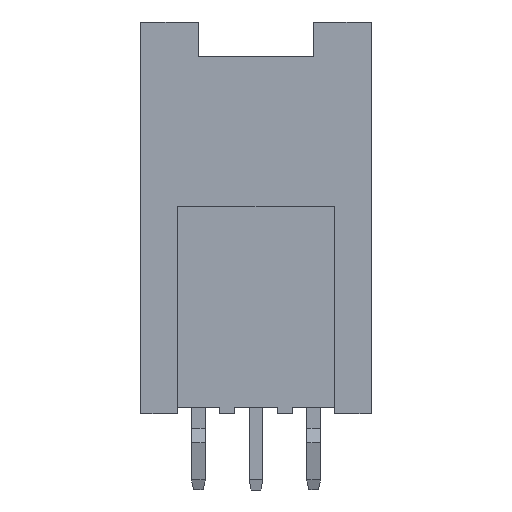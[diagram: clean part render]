
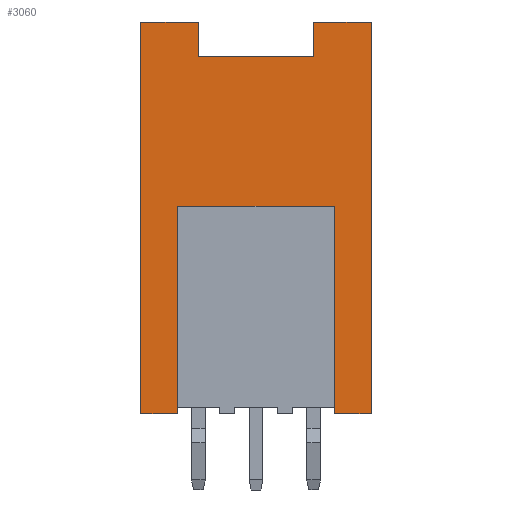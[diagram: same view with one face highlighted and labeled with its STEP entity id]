
A CAD part, front view. The second image highlights one B-rep face of the part: STEP entity #3060.
In plain terms, the highlighted planar face has unit normal (0, -1, 0).
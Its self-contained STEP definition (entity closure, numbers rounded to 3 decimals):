
#12 = DIRECTION ( 'NONE',  ( 0., 0., -1. ) ) ;
#34 = VERTEX_POINT ( 'NONE', #1103 ) ;
#51 = VERTEX_POINT ( 'NONE', #3626 ) ;
#101 = ORIENTED_EDGE ( 'NONE', *, *, #766, .F. ) ;
#222 = VECTOR ( 'NONE', #1293, 1000. ) ;
#233 = EDGE_CURVE ( 'NONE', #34, #2482, #3124, .T. ) ;
#235 = DIRECTION ( 'NONE',  ( 1., 0., 0. ) ) ;
#291 = VERTEX_POINT ( 'NONE', #4625 ) ;
#312 = DIRECTION ( 'NONE',  ( 0., 0., -1. ) ) ;
#380 = VECTOR ( 'NONE', #3720, 1000. ) ;
#419 = VERTEX_POINT ( 'NONE', #1558 ) ;
#692 = CARTESIAN_POINT ( 'NONE',  ( -7.593, -3.079, 8.5 ) ) ;
#739 = CARTESIAN_POINT ( 'NONE',  ( 2.407, -3.079, 8.5 ) ) ;
#766 = EDGE_CURVE ( 'NONE', #2482, #1176, #2978, .T. ) ;
#833 = CARTESIAN_POINT ( 'NONE',  ( -0.093, -3.079, 8.5 ) ) ;
#919 = EDGE_CURVE ( 'NONE', #51, #291, #3889, .T. ) ;
#932 = LINE ( 'NONE', #1346, #222 ) ;
#968 = EDGE_LOOP ( 'NONE', ( #4973, #4266, #101, #1277, #4358, #1109, #3714, #3843, #2757, #1633, #4154, #4010 ) ) ;
#969 = CARTESIAN_POINT ( 'NONE',  ( 5.807, -3.079, 0.5 ) ) ;
#997 = EDGE_CURVE ( 'NONE', #291, #3065, #2789, .T. ) ;
#1103 = CARTESIAN_POINT ( 'NONE',  ( 2.407, -3.079, 8.5 ) ) ;
#1109 = ORIENTED_EDGE ( 'NONE', *, *, #2747, .T. ) ;
#1158 = VECTOR ( 'NONE', #235, 1000. ) ;
#1176 = VERTEX_POINT ( 'NONE', #2217 ) ;
#1211 = FACE_OUTER_BOUND ( 'NONE', #968, .T. ) ;
#1277 = ORIENTED_EDGE ( 'NONE', *, *, #233, .F. ) ;
#1291 = LINE ( 'NONE', #2862, #380 ) ;
#1293 = DIRECTION ( 'NONE',  ( 1., 0., 0. ) ) ;
#1334 = DIRECTION ( 'NONE',  ( -1., 0., 0. ) ) ;
#1346 = CARTESIAN_POINT ( 'NONE',  ( -5.093, -3.079, 7. ) ) ;
#1355 = EDGE_CURVE ( 'NONE', #34, #4780, #1291, .T. ) ;
#1380 = DIRECTION ( 'NONE',  ( -1., 0., 0. ) ) ;
#1532 = CARTESIAN_POINT ( 'NONE',  ( 0.807, -3.079, 12.452 ) ) ;
#1551 = VERTEX_POINT ( 'NONE', #2311 ) ;
#1558 = CARTESIAN_POINT ( 'NONE',  ( -7.593, -3.079, -8.5 ) ) ;
#1597 = VERTEX_POINT ( 'NONE', #2698 ) ;
#1633 = ORIENTED_EDGE ( 'NONE', *, *, #3635, .T. ) ;
#1705 = DIRECTION ( 'NONE',  ( 0., 1., 0. ) ) ;
#1789 = LINE ( 'NONE', #3822, #2567 ) ;
#1867 = EDGE_CURVE ( 'NONE', #1551, #4718, #4593, .T. ) ;
#1896 = EDGE_CURVE ( 'NONE', #3154, #1551, #5037, .T. ) ;
#2053 = DIRECTION ( 'NONE',  ( 1., 0., 0. ) ) ;
#2217 = CARTESIAN_POINT ( 'NONE',  ( 0.807, -3.079, -8.5 ) ) ;
#2308 = EDGE_CURVE ( 'NONE', #3065, #1597, #932, .T. ) ;
#2311 = CARTESIAN_POINT ( 'NONE',  ( -5.993, -3.079, 0.5 ) ) ;
#2482 = VERTEX_POINT ( 'NONE', #3640 ) ;
#2488 = VECTOR ( 'NONE', #4816, 1000. ) ;
#2524 = LINE ( 'NONE', #4860, #2923 ) ;
#2567 = VECTOR ( 'NONE', #3866, 1000. ) ;
#2572 = CARTESIAN_POINT ( 'NONE',  ( 2.407, -3.079, -8.5 ) ) ;
#2576 = DIRECTION ( 'NONE',  ( 0., 0., -1. ) ) ;
#2698 = CARTESIAN_POINT ( 'NONE',  ( -0.093, -3.079, 7. ) ) ;
#2747 = EDGE_CURVE ( 'NONE', #4780, #1597, #1789, .T. ) ;
#2757 = ORIENTED_EDGE ( 'NONE', *, *, #919, .F. ) ;
#2765 = VECTOR ( 'NONE', #312, 1000. ) ;
#2784 = LINE ( 'NONE', #1532, #4970 ) ;
#2789 = LINE ( 'NONE', #4391, #2765 ) ;
#2848 = CARTESIAN_POINT ( 'NONE',  ( -7.593, -3.079, 8.5 ) ) ;
#2862 = CARTESIAN_POINT ( 'NONE',  ( 2.407, -3.079, 8.5 ) ) ;
#2913 = AXIS2_PLACEMENT_3D ( 'NONE', #2848, #1705, #2053 ) ;
#2923 = VECTOR ( 'NONE', #3274, 1000. ) ;
#2978 = LINE ( 'NONE', #2572, #4645 ) ;
#3060 = ADVANCED_FACE ( 'NONE', ( #1211 ), #4105, .F. ) ;
#3065 = VERTEX_POINT ( 'NONE', #4953 ) ;
#3124 = LINE ( 'NONE', #739, #4149 ) ;
#3154 = VERTEX_POINT ( 'NONE', #3893 ) ;
#3274 = DIRECTION ( 'NONE',  ( 1., 0., 0. ) ) ;
#3450 = VECTOR ( 'NONE', #1380, 1000. ) ;
#3524 = LINE ( 'NONE', #5204, #2488 ) ;
#3626 = CARTESIAN_POINT ( 'NONE',  ( -7.593, -3.079, 8.5 ) ) ;
#3635 = EDGE_CURVE ( 'NONE', #51, #419, #3524, .T. ) ;
#3640 = CARTESIAN_POINT ( 'NONE',  ( 2.407, -3.079, -8.5 ) ) ;
#3643 = EDGE_CURVE ( 'NONE', #3154, #1176, #2784, .T. ) ;
#3714 = ORIENTED_EDGE ( 'NONE', *, *, #2308, .F. ) ;
#3720 = DIRECTION ( 'NONE',  ( -1., 0., 0. ) ) ;
#3822 = CARTESIAN_POINT ( 'NONE',  ( -0.093, -3.079, 8.5 ) ) ;
#3843 = ORIENTED_EDGE ( 'NONE', *, *, #997, .F. ) ;
#3866 = DIRECTION ( 'NONE',  ( 0., 0., -1. ) ) ;
#3889 = LINE ( 'NONE', #692, #1158 ) ;
#3893 = CARTESIAN_POINT ( 'NONE',  ( 0.807, -3.079, 0.5 ) ) ;
#3975 = VECTOR ( 'NONE', #2576, 1000. ) ;
#4010 = ORIENTED_EDGE ( 'NONE', *, *, #1867, .F. ) ;
#4014 = DIRECTION ( 'NONE',  ( 0., 0., -1. ) ) ;
#4105 = PLANE ( 'NONE',  #2913 ) ;
#4149 = VECTOR ( 'NONE', #12, 1000. ) ;
#4154 = ORIENTED_EDGE ( 'NONE', *, *, #5169, .T. ) ;
#4266 = ORIENTED_EDGE ( 'NONE', *, *, #3643, .T. ) ;
#4335 = CARTESIAN_POINT ( 'NONE',  ( -5.993, -3.079, -8.5 ) ) ;
#4358 = ORIENTED_EDGE ( 'NONE', *, *, #1355, .T. ) ;
#4391 = CARTESIAN_POINT ( 'NONE',  ( -5.093, -3.079, 8.5 ) ) ;
#4593 = LINE ( 'NONE', #4614, #3975 ) ;
#4614 = CARTESIAN_POINT ( 'NONE',  ( -5.993, -3.079, 12.452 ) ) ;
#4625 = CARTESIAN_POINT ( 'NONE',  ( -5.093, -3.079, 8.5 ) ) ;
#4645 = VECTOR ( 'NONE', #1334, 1000. ) ;
#4718 = VERTEX_POINT ( 'NONE', #4335 ) ;
#4780 = VERTEX_POINT ( 'NONE', #833 ) ;
#4816 = DIRECTION ( 'NONE',  ( 0., 0., -1. ) ) ;
#4860 = CARTESIAN_POINT ( 'NONE',  ( -7.593, -3.079, -8.5 ) ) ;
#4953 = CARTESIAN_POINT ( 'NONE',  ( -5.093, -3.079, 7. ) ) ;
#4970 = VECTOR ( 'NONE', #4014, 1000. ) ;
#4973 = ORIENTED_EDGE ( 'NONE', *, *, #1896, .F. ) ;
#5037 = LINE ( 'NONE', #969, #3450 ) ;
#5169 = EDGE_CURVE ( 'NONE', #419, #4718, #2524, .T. ) ;
#5204 = CARTESIAN_POINT ( 'NONE',  ( -7.593, -3.079, 8.5 ) ) ;
